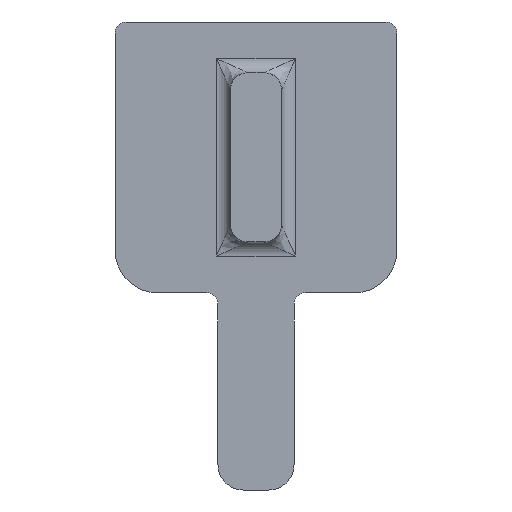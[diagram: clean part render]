
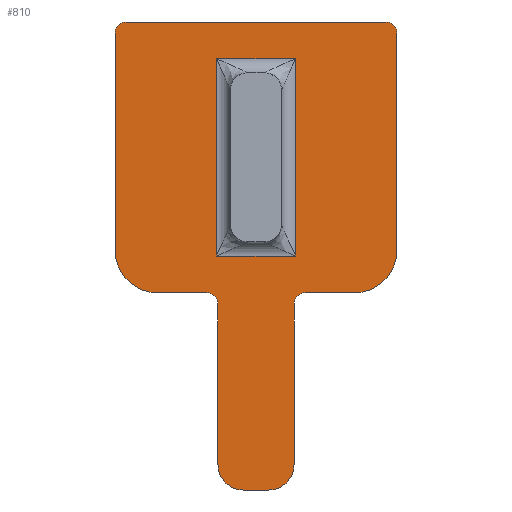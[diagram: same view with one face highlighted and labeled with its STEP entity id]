
A CAD part, front view. The second image highlights one B-rep face of the part: STEP entity #810.
In plain terms, the highlighted planar face has unit normal (0, -1, 0).
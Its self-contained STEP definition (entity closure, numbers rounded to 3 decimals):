
#321=CARTESIAN_POINT('',(-4.6,0.,4.4));
#322=DIRECTION('',(0.,-1.,0.));
#323=DIRECTION('',(0.,0.,1.));
#324=AXIS2_PLACEMENT_3D('',#321,#322,#323);
#326=DIRECTION('',(1.,0.,0.));
#327=VECTOR('',#326,9.2);
#328=CARTESIAN_POINT('',(-4.6,0.,4.8));
#329=LINE('',#328,#327);
#330=CARTESIAN_POINT('',(4.6,0.,4.4));
#331=DIRECTION('',(0.,-1.,0.));
#332=DIRECTION('',(1.,0.,0.));
#333=AXIS2_PLACEMENT_3D('',#330,#331,#332);
#335=DIRECTION('',(0.,0.,-1.));
#336=VECTOR('',#335,7.7);
#337=CARTESIAN_POINT('',(5.,0.,4.4));
#338=LINE('',#337,#336);
#339=CARTESIAN_POINT('',(3.5,0.,-3.3));
#340=DIRECTION('',(0.,-1.,0.));
#341=DIRECTION('',(0.,0.,-1.));
#342=AXIS2_PLACEMENT_3D('',#339,#340,#341);
#344=DIRECTION('',(-1.,0.,0.));
#345=VECTOR('',#344,1.75);
#346=CARTESIAN_POINT('',(3.5,0.,-4.8));
#347=LINE('',#346,#345);
#348=DIRECTION('',(0.,0.,-1.));
#349=VECTOR('',#348,5.7);
#350=CARTESIAN_POINT('',(1.35,0.,-5.2));
#351=LINE('',#350,#349);
#352=CARTESIAN_POINT('',(0.45,0.,-10.9));
#353=DIRECTION('',(0.,-1.,0.));
#354=DIRECTION('',(0.,0.,-1.));
#355=AXIS2_PLACEMENT_3D('',#352,#353,#354);
#357=DIRECTION('',(-1.,0.,0.));
#358=VECTOR('',#357,0.9);
#359=CARTESIAN_POINT('',(0.45,0.,-11.8));
#360=LINE('',#359,#358);
#361=CARTESIAN_POINT('',(-0.45,0.,-10.9));
#362=DIRECTION('',(0.,-1.,0.));
#363=DIRECTION('',(-1.,0.,0.));
#364=AXIS2_PLACEMENT_3D('',#361,#362,#363);
#366=DIRECTION('',(0.,0.,1.));
#367=VECTOR('',#366,5.7);
#368=CARTESIAN_POINT('',(-1.35,0.,-10.9));
#369=LINE('',#368,#367);
#370=DIRECTION('',(-1.,0.,0.));
#371=VECTOR('',#370,1.75);
#372=CARTESIAN_POINT('',(-1.75,0.,-4.8));
#373=LINE('',#372,#371);
#374=CARTESIAN_POINT('',(-3.5,0.,-3.3));
#375=DIRECTION('',(0.,-1.,0.));
#376=DIRECTION('',(-1.,0.,0.));
#377=AXIS2_PLACEMENT_3D('',#374,#375,#376);
#379=DIRECTION('',(0.,0.,1.));
#380=VECTOR('',#379,7.7);
#381=CARTESIAN_POINT('',(-5.,0.,-3.3));
#382=LINE('',#381,#380);
#383=DIRECTION('',(0.,0.,1.));
#384=VECTOR('',#383,7.);
#385=CARTESIAN_POINT('',(1.4,0.,-3.5));
#386=LINE('',#385,#384);
#387=DIRECTION('',(-1.,0.,0.));
#388=VECTOR('',#387,2.8);
#389=CARTESIAN_POINT('',(1.4,0.,3.5));
#390=LINE('',#389,#388);
#391=DIRECTION('',(0.,0.,-1.));
#392=VECTOR('',#391,7.);
#393=CARTESIAN_POINT('',(-1.4,0.,3.5));
#394=LINE('',#393,#392);
#395=DIRECTION('',(1.,0.,0.));
#396=VECTOR('',#395,2.8);
#397=CARTESIAN_POINT('',(-1.4,0.,-3.5));
#398=LINE('',#397,#396);
#415=CARTESIAN_POINT('',(-1.75,0.,-5.2));
#416=DIRECTION('',(0.,1.,0.));
#417=DIRECTION('',(0.,0.,1.));
#418=AXIS2_PLACEMENT_3D('',#415,#416,#417);
#449=CARTESIAN_POINT('',(1.75,0.,-5.2));
#450=DIRECTION('',(0.,1.,0.));
#451=DIRECTION('',(-1.,0.,0.));
#452=AXIS2_PLACEMENT_3D('',#449,#450,#451);
#555=CARTESIAN_POINT('',(1.4,0.,-3.5));
#627=CARTESIAN_POINT('',(-1.4,0.,-3.5));
#651=CARTESIAN_POINT('',(-1.4,0.,3.5));
#663=CARTESIAN_POINT('',(1.4,0.,3.5));
#677=CARTESIAN_POINT('',(-1.75,0.,-4.8));
#679=VERTEX_POINT('',#677);
#681=CARTESIAN_POINT('',(-1.35,0.,-5.2));
#683=VERTEX_POINT('',#681);
#685=CARTESIAN_POINT('',(1.35,0.,-5.2));
#687=VERTEX_POINT('',#685);
#689=CARTESIAN_POINT('',(1.75,0.,-4.8));
#691=VERTEX_POINT('',#689);
#693=CARTESIAN_POINT('',(-4.6,0.,4.8));
#694=CARTESIAN_POINT('',(-5.,0.,4.4));
#695=VERTEX_POINT('',#693);
#696=VERTEX_POINT('',#694);
#701=CARTESIAN_POINT('',(5.,0.,4.4));
#702=CARTESIAN_POINT('',(4.6,0.,4.8));
#703=VERTEX_POINT('',#701);
#704=VERTEX_POINT('',#702);
#709=CARTESIAN_POINT('',(-5.,0.,-3.3));
#710=CARTESIAN_POINT('',(-3.5,0.,-4.8));
#711=VERTEX_POINT('',#709);
#712=VERTEX_POINT('',#710);
#717=CARTESIAN_POINT('',(3.5,0.,-4.8));
#718=CARTESIAN_POINT('',(5.,0.,-3.3));
#719=VERTEX_POINT('',#717);
#720=VERTEX_POINT('',#718);
#725=CARTESIAN_POINT('',(0.45,0.,-11.8));
#726=CARTESIAN_POINT('',(1.35,0.,-10.9));
#727=VERTEX_POINT('',#725);
#728=VERTEX_POINT('',#726);
#733=CARTESIAN_POINT('',(-1.35,0.,-10.9));
#734=CARTESIAN_POINT('',(-0.45,0.,-11.8));
#735=VERTEX_POINT('',#733);
#736=VERTEX_POINT('',#734);
#745=VERTEX_POINT('',#555);
#750=VERTEX_POINT('',#627);
#755=VERTEX_POINT('',#663);
#760=VERTEX_POINT('',#651);
#761=CARTESIAN_POINT('',(0.,0.,0.));
#762=DIRECTION('',(0.,1.,0.));
#763=DIRECTION('',(1.,0.,0.));
#764=AXIS2_PLACEMENT_3D('',#761,#762,#763);
#765=PLANE('',#764);
#767=ORIENTED_EDGE('',*,*,#766,.F.);
#769=ORIENTED_EDGE('',*,*,#768,.T.);
#771=ORIENTED_EDGE('',*,*,#770,.F.);
#773=ORIENTED_EDGE('',*,*,#772,.T.);
#775=ORIENTED_EDGE('',*,*,#774,.F.);
#777=ORIENTED_EDGE('',*,*,#776,.T.);
#779=ORIENTED_EDGE('',*,*,#778,.F.);
#781=ORIENTED_EDGE('',*,*,#780,.T.);
#783=ORIENTED_EDGE('',*,*,#782,.F.);
#785=ORIENTED_EDGE('',*,*,#784,.T.);
#787=ORIENTED_EDGE('',*,*,#786,.F.);
#789=ORIENTED_EDGE('',*,*,#788,.T.);
#791=ORIENTED_EDGE('',*,*,#790,.F.);
#793=ORIENTED_EDGE('',*,*,#792,.T.);
#795=ORIENTED_EDGE('',*,*,#794,.F.);
#797=ORIENTED_EDGE('',*,*,#796,.T.);
#798=EDGE_LOOP('',(#767,#769,#771,#773,#775,#777,#779,#781,#783,#785,#787,#789,
#791,#793,#795,#797));
#799=FACE_OUTER_BOUND('',#798,.F.);
#801=ORIENTED_EDGE('',*,*,#800,.T.);
#803=ORIENTED_EDGE('',*,*,#802,.T.);
#805=ORIENTED_EDGE('',*,*,#804,.T.);
#807=ORIENTED_EDGE('',*,*,#806,.T.);
#808=EDGE_LOOP('',(#801,#803,#805,#807));
#809=FACE_BOUND('',#808,.F.);
#810=ADVANCED_FACE('',(#799,#809),#765,.F.);
#325=CIRCLE('',#324,0.4);
#334=CIRCLE('',#333,0.4);
#343=CIRCLE('',#342,1.5);
#356=CIRCLE('',#355,0.9);
#365=CIRCLE('',#364,0.9);
#378=CIRCLE('',#377,1.5);
#419=CIRCLE('',#418,0.4);
#453=CIRCLE('',#452,0.4);
#766=EDGE_CURVE('',#695,#696,#325,.T.);
#768=EDGE_CURVE('',#695,#704,#329,.T.);
#770=EDGE_CURVE('',#703,#704,#334,.T.);
#772=EDGE_CURVE('',#703,#720,#338,.T.);
#774=EDGE_CURVE('',#719,#720,#343,.T.);
#776=EDGE_CURVE('',#719,#691,#347,.T.);
#778=EDGE_CURVE('',#687,#691,#453,.T.);
#780=EDGE_CURVE('',#687,#728,#351,.T.);
#782=EDGE_CURVE('',#727,#728,#356,.T.);
#784=EDGE_CURVE('',#727,#736,#360,.T.);
#786=EDGE_CURVE('',#735,#736,#365,.T.);
#788=EDGE_CURVE('',#735,#683,#369,.T.);
#790=EDGE_CURVE('',#679,#683,#419,.T.);
#792=EDGE_CURVE('',#679,#712,#373,.T.);
#794=EDGE_CURVE('',#711,#712,#378,.T.);
#796=EDGE_CURVE('',#711,#696,#382,.T.);
#800=EDGE_CURVE('',#745,#755,#386,.T.);
#802=EDGE_CURVE('',#755,#760,#390,.T.);
#804=EDGE_CURVE('',#760,#750,#394,.T.);
#806=EDGE_CURVE('',#750,#745,#398,.T.);
